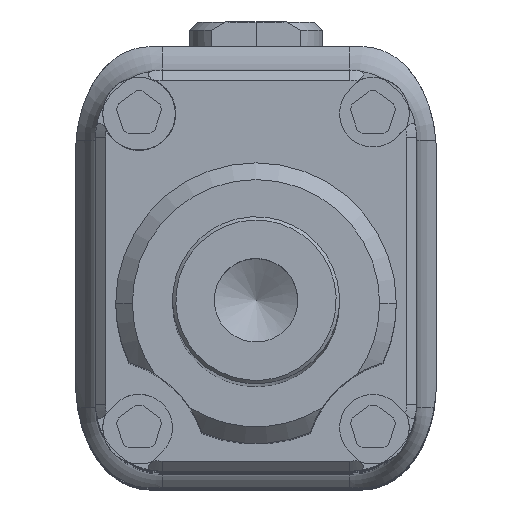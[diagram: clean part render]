
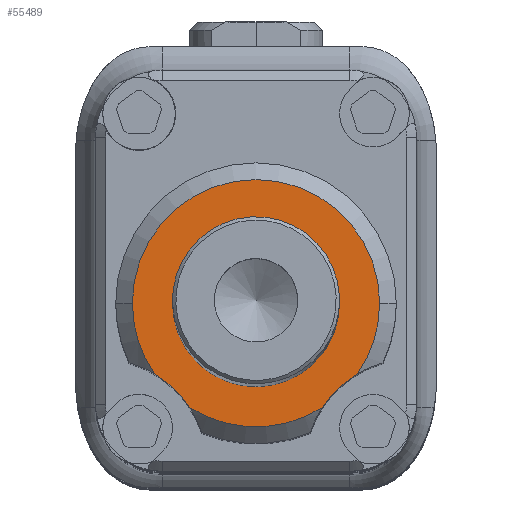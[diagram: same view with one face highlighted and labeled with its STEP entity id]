
A CAD part, top view. The second image highlights one B-rep face of the part: STEP entity #55489.
In plain terms, the highlighted planar face has unit normal (0, 0, 1) as drawn and (0, 0, -1) by its records, which use the part's own axes.
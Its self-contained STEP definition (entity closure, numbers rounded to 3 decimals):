
#690 = ORIENTED_EDGE ( 'NONE', *, *, #31924, .T. ) ;
#811 = CIRCLE ( 'NONE', #60852, 2.5 ) ;
#1063 = VERTEX_POINT ( 'NONE', #60116 ) ;
#1232 = AXIS2_PLACEMENT_3D ( 'NONE', #42856, #37926, #23449 ) ;
#1825 = DIRECTION ( 'NONE',  ( 0., 0., -1. ) ) ;
#3586 = ORIENTED_EDGE ( 'NONE', *, *, #59402, .F. ) ;
#4892 = VERTEX_POINT ( 'NONE', #44979 ) ;
#5219 = CIRCLE ( 'NONE', #32789, 3.7 ) ;
#5704 = ORIENTED_EDGE ( 'NONE', *, *, #21523, .T. ) ;
#6748 = ORIENTED_EDGE ( 'NONE', *, *, #52570, .F. ) ;
#7294 = AXIS2_PLACEMENT_3D ( 'NONE', #36422, #31788, #18822 ) ;
#8364 = DIRECTION ( 'NONE',  ( 0., 0., -1. ) ) ;
#10198 = CIRCLE ( 'NONE', #42742, 3.7 ) ;
#11421 = CARTESIAN_POINT ( 'NONE',  ( 0., 0.2, -33.5 ) ) ;
#12333 = AXIS2_PLACEMENT_3D ( 'NONE', #39894, #30645, #50318 ) ;
#12648 = CARTESIAN_POINT ( 'NONE',  ( 0., 0.2, -33.5 ) ) ;
#15404 = CARTESIAN_POINT ( 'NONE',  ( 0., 0.2, -33.5 ) ) ;
#16051 = DIRECTION ( 'NONE',  ( -1., 0., 0. ) ) ;
#16722 = CARTESIAN_POINT ( 'NONE',  ( -2.5, 0.2, -33.5 ) ) ;
#18822 = DIRECTION ( 'NONE',  ( -1., 0., 0. ) ) ;
#19494 = DIRECTION ( 'NONE',  ( 0., 0., 1. ) ) ;
#21523 = EDGE_CURVE ( 'NONE', #1063, #4892, #38879, .T. ) ;
#23449 = DIRECTION ( 'NONE',  ( -1., 0., 0. ) ) ;
#23614 = ORIENTED_EDGE ( 'NONE', *, *, #49156, .T. ) ;
#23847 = CARTESIAN_POINT ( 'NONE',  ( 1.983, -2.924, -33.5 ) ) ;
#25048 = AXIS2_PLACEMENT_3D ( 'NONE', #46394, #19494, #48418 ) ;
#27290 = CARTESIAN_POINT ( 'NONE',  ( 2.5, 0.2, -33.5 ) ) ;
#27321 = CARTESIAN_POINT ( 'NONE',  ( -1.983, -2.924, -33.5 ) ) ;
#27794 = CIRCLE ( 'NONE', #1232, 3.2 ) ;
#28683 = EDGE_CURVE ( 'NONE', #57736, #36220, #51600, .T. ) ;
#28932 = VERTEX_POINT ( 'NONE', #16722 ) ;
#30645 = DIRECTION ( 'NONE',  ( 0., 0., -1. ) ) ;
#31788 = DIRECTION ( 'NONE',  ( 0., 0., -1. ) ) ;
#31795 = CARTESIAN_POINT ( 'NONE',  ( -3.038, -1.912, -33.5 ) ) ;
#31924 = EDGE_CURVE ( 'NONE', #36220, #58785, #52549, .T. ) ;
#32129 = ORIENTED_EDGE ( 'NONE', *, *, #28683, .T. ) ;
#32403 = CARTESIAN_POINT ( 'NONE',  ( 0., 0.2, -33.5 ) ) ;
#32487 = DIRECTION ( 'NONE',  ( 0., 0., -1. ) ) ;
#32789 = AXIS2_PLACEMENT_3D ( 'NONE', #59620, #32487, #50348 ) ;
#36220 = VERTEX_POINT ( 'NONE', #23847 ) ;
#36422 = CARTESIAN_POINT ( 'NONE',  ( 0., 0.2, -33.5 ) ) ;
#37042 = ORIENTED_EDGE ( 'NONE', *, *, #39771, .T. ) ;
#37043 = PLANE ( 'NONE',  #47901 ) ;
#37926 = DIRECTION ( 'NONE',  ( 0., 0., -1. ) ) ;
#38879 = CIRCLE ( 'NONE', #12333, 3.7 ) ;
#39149 = DIRECTION ( 'NONE',  ( 0., 0., -1. ) ) ;
#39771 = EDGE_CURVE ( 'NONE', #48199, #1063, #10198, .T. ) ;
#39894 = CARTESIAN_POINT ( 'NONE',  ( 0., 0.2, -33.5 ) ) ;
#40999 = DIRECTION ( 'NONE',  ( 0., 0., -1. ) ) ;
#42742 = AXIS2_PLACEMENT_3D ( 'NONE', #15404, #1825, #56189 ) ;
#42856 = CARTESIAN_POINT ( 'NONE',  ( -4.667, -4.667, -33.5 ) ) ;
#43881 = CARTESIAN_POINT ( 'NONE',  ( 3.038, -1.912, -33.5 ) ) ;
#44979 = CARTESIAN_POINT ( 'NONE',  ( 3.7, 0.2, -33.5 ) ) ;
#45424 = VERTEX_POINT ( 'NONE', #27290 ) ;
#45962 = DIRECTION ( 'NONE',  ( 0., -1., 0. ) ) ;
#46271 = FACE_OUTER_BOUND ( 'NONE', #55567, .T. ) ;
#46394 = CARTESIAN_POINT ( 'NONE',  ( 4.667, -4.667, -33.5 ) ) ;
#47901 = AXIS2_PLACEMENT_3D ( 'NONE', #32403, #8364, #45962 ) ;
#48199 = VERTEX_POINT ( 'NONE', #31795 ) ;
#48361 = EDGE_CURVE ( 'NONE', #48199, #58785, #27794, .T. ) ;
#48418 = DIRECTION ( 'NONE',  ( -1., 0., 0. ) ) ;
#49156 = EDGE_CURVE ( 'NONE', #4892, #57736, #5219, .T. ) ;
#49697 = EDGE_LOOP ( 'NONE', ( #3586, #6748 ) ) ;
#50318 = DIRECTION ( 'NONE',  ( -1., 0., 0. ) ) ;
#50348 = DIRECTION ( 'NONE',  ( -1., 0., 0. ) ) ;
#50589 = FACE_BOUND ( 'NONE', #49697, .T. ) ;
#51008 = CIRCLE ( 'NONE', #54984, 2.5 ) ;
#51600 = CIRCLE ( 'NONE', #25048, 3.2 ) ;
#52549 = CIRCLE ( 'NONE', #7294, 3.7 ) ;
#52570 = EDGE_CURVE ( 'NONE', #45424, #28932, #51008, .T. ) ;
#54984 = AXIS2_PLACEMENT_3D ( 'NONE', #11421, #39149, #16051 ) ;
#55489 = ADVANCED_FACE ( 'NONE', ( #46271, #50589 ), #37043, .T. ) ;
#55567 = EDGE_LOOP ( 'NONE', ( #32129, #690, #57414, #37042, #5704, #23614 ) ) ;
#56189 = DIRECTION ( 'NONE',  ( -1., 0., 0. ) ) ;
#57414 = ORIENTED_EDGE ( 'NONE', *, *, #48361, .F. ) ;
#57736 = VERTEX_POINT ( 'NONE', #43881 ) ;
#58785 = VERTEX_POINT ( 'NONE', #27321 ) ;
#59402 = EDGE_CURVE ( 'NONE', #28932, #45424, #811, .T. ) ;
#59620 = CARTESIAN_POINT ( 'NONE',  ( 0., 0.2, -33.5 ) ) ;
#59781 = DIRECTION ( 'NONE',  ( -1., 0., 0. ) ) ;
#60116 = CARTESIAN_POINT ( 'NONE',  ( -3.7, 0.2, -33.5 ) ) ;
#60852 = AXIS2_PLACEMENT_3D ( 'NONE', #12648, #40999, #59781 ) ;
